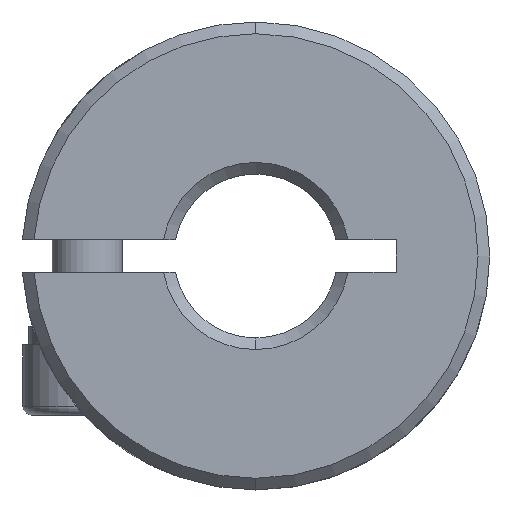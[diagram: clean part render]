
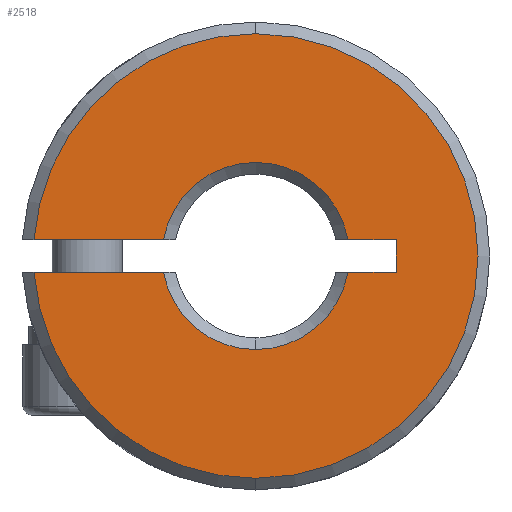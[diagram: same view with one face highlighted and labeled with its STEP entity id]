
A CAD part, front view. The second image highlights one B-rep face of the part: STEP entity #2518.
In plain terms, the highlighted planar face has unit normal (0, -1, 0).
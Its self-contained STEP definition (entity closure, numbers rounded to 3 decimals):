
#29 = CARTESIAN_POINT ( 'NONE',  ( 6., 0.25, 0.7 ) ) ;
#50 = VERTEX_POINT ( 'NONE', #2288 ) ;
#95 = DIRECTION ( 'NONE',  ( 0., 1., 0. ) ) ;
#141 = EDGE_CURVE ( 'NONE', #2504, #559, #3699, .T. ) ;
#147 = DIRECTION ( 'NONE',  ( 0., 1., 0. ) ) ;
#164 = VECTOR ( 'NONE', #3126, 1000. ) ;
#243 = DIRECTION ( 'NONE',  ( 0., -1., 0. ) ) ;
#275 = ORIENTED_EDGE ( 'NONE', *, *, #2959, .F. ) ;
#283 = ORIENTED_EDGE ( 'NONE', *, *, #141, .F. ) ;
#289 = CIRCLE ( 'NONE', #2148, 4. ) ;
#340 = DIRECTION ( 'NONE',  ( 0., 0., 1. ) ) ;
#391 = ORIENTED_EDGE ( 'NONE', *, *, #3555, .F. ) ;
#423 = EDGE_CURVE ( 'NONE', #2504, #3342, #3697, .T. ) ;
#464 = CARTESIAN_POINT ( 'NONE',  ( 6., 0.25, 0.7 ) ) ;
#472 = CARTESIAN_POINT ( 'NONE',  ( 6., 0.25, 0.7 ) ) ;
#490 = CARTESIAN_POINT ( 'NONE',  ( 6., 0.25, -0.7 ) ) ;
#517 = ORIENTED_EDGE ( 'NONE', *, *, #2972, .F. ) ;
#554 = AXIS2_PLACEMENT_3D ( 'NONE', #2796, #2828, #1070 ) ;
#559 = VERTEX_POINT ( 'NONE', #570 ) ;
#570 = CARTESIAN_POINT ( 'NONE',  ( -3.938, 0.25, -0.7 ) ) ;
#620 = CARTESIAN_POINT ( 'NONE',  ( 0., 0.25, -4. ) ) ;
#622 = LINE ( 'NONE', #29, #1389 ) ;
#633 = CIRCLE ( 'NONE', #1315, 4. ) ;
#677 = ORIENTED_EDGE ( 'NONE', *, *, #784, .T. ) ;
#695 = CARTESIAN_POINT ( 'NONE',  ( -9.474, 0.25, -0.7 ) ) ;
#761 = CIRCLE ( 'NONE', #3012, 4. ) ;
#784 = EDGE_CURVE ( 'NONE', #1780, #889, #289, .T. ) ;
#862 = CIRCLE ( 'NONE', #554, 9.5 ) ;
#868 = DIRECTION ( 'NONE',  ( 0., -1., 0. ) ) ;
#889 = VERTEX_POINT ( 'NONE', #1790 ) ;
#967 = AXIS2_PLACEMENT_3D ( 'NONE', #1989, #243, #2013 ) ;
#1070 = DIRECTION ( 'NONE',  ( 0., 0., 1. ) ) ;
#1117 = VERTEX_POINT ( 'NONE', #3626 ) ;
#1128 = FACE_OUTER_BOUND ( 'NONE', #1171, .T. ) ;
#1162 = EDGE_CURVE ( 'NONE', #1117, #1783, #622, .T. ) ;
#1170 = CARTESIAN_POINT ( 'NONE',  ( 6., 0.25, -0.7 ) ) ;
#1171 = EDGE_LOOP ( 'NONE', ( #283, #2000, #1287, #3772, #517, #677, #275, #1808, #391, #1973, #1277 ) ) ;
#1229 = VERTEX_POINT ( 'NONE', #620 ) ;
#1252 = VERTEX_POINT ( 'NONE', #2952 ) ;
#1265 = AXIS2_PLACEMENT_3D ( 'NONE', #3334, #147, #3639 ) ;
#1277 = ORIENTED_EDGE ( 'NONE', *, *, #3570, .T. ) ;
#1287 = ORIENTED_EDGE ( 'NONE', *, *, #2065, .T. ) ;
#1315 = AXIS2_PLACEMENT_3D ( 'NONE', #3297, #95, #2992 ) ;
#1385 = VECTOR ( 'NONE', #1773, 1000. ) ;
#1389 = VECTOR ( 'NONE', #340, 1000. ) ;
#1529 = EDGE_CURVE ( 'NONE', #2284, #1229, #633, .T. ) ;
#1619 = CIRCLE ( 'NONE', #967, 9.5 ) ;
#1667 = DIRECTION ( 'NONE',  ( -1., 0., 0. ) ) ;
#1712 = DIRECTION ( 'NONE',  ( 0., 0., 1. ) ) ;
#1773 = DIRECTION ( 'NONE',  ( 1., 0., 0. ) ) ;
#1780 = VERTEX_POINT ( 'NONE', #2922 ) ;
#1783 = VERTEX_POINT ( 'NONE', #472 ) ;
#1790 = CARTESIAN_POINT ( 'NONE',  ( 3.938, 0.25, 0.7 ) ) ;
#1808 = ORIENTED_EDGE ( 'NONE', *, *, #1162, .F. ) ;
#1890 = PLANE ( 'NONE',  #1265 ) ;
#1973 = ORIENTED_EDGE ( 'NONE', *, *, #1529, .T. ) ;
#1989 = CARTESIAN_POINT ( 'NONE',  ( 0., 0.25, 0. ) ) ;
#2000 = ORIENTED_EDGE ( 'NONE', *, *, #423, .T. ) ;
#2013 = DIRECTION ( 'NONE',  ( 0., 0., 1. ) ) ;
#2065 = EDGE_CURVE ( 'NONE', #3342, #50, #862, .T. ) ;
#2148 = AXIS2_PLACEMENT_3D ( 'NONE', #2831, #3684, #3117 ) ;
#2164 = LINE ( 'NONE', #464, #3620 ) ;
#2200 = CARTESIAN_POINT ( 'NONE',  ( 6., 0.25, 0.7 ) ) ;
#2284 = VERTEX_POINT ( 'NONE', #3196 ) ;
#2288 = CARTESIAN_POINT ( 'NONE',  ( 0., 0.25, 9.5 ) ) ;
#2504 = VERTEX_POINT ( 'NONE', #695 ) ;
#2518 = ADVANCED_FACE ( 'NONE', ( #1128 ), #1890, .F. ) ;
#2521 = DIRECTION ( 'NONE',  ( -1., 0., 0. ) ) ;
#2770 = VECTOR ( 'NONE', #1667, 1000. ) ;
#2788 = CARTESIAN_POINT ( 'NONE',  ( 0., 0.25, -9.5 ) ) ;
#2796 = CARTESIAN_POINT ( 'NONE',  ( 0., 0.25, 0. ) ) ;
#2828 = DIRECTION ( 'NONE',  ( 0., -1., 0. ) ) ;
#2831 = CARTESIAN_POINT ( 'NONE',  ( 0., 0.25, 0. ) ) ;
#2867 = LINE ( 'NONE', #2200, #2770 ) ;
#2922 = CARTESIAN_POINT ( 'NONE',  ( -3.938, 0.25, 0.7 ) ) ;
#2952 = CARTESIAN_POINT ( 'NONE',  ( -9.474, 0.25, 0.7 ) ) ;
#2959 = EDGE_CURVE ( 'NONE', #1783, #889, #2164, .T. ) ;
#2972 = EDGE_CURVE ( 'NONE', #1780, #1252, #2867, .T. ) ;
#2992 = DIRECTION ( 'NONE',  ( 0., 0., 1. ) ) ;
#3012 = AXIS2_PLACEMENT_3D ( 'NONE', #3727, #3462, #3187 ) ;
#3083 = LINE ( 'NONE', #490, #164 ) ;
#3102 = EDGE_CURVE ( 'NONE', #50, #1252, #1619, .T. ) ;
#3117 = DIRECTION ( 'NONE',  ( 0., 0., 1. ) ) ;
#3126 = DIRECTION ( 'NONE',  ( 1., 0., 0. ) ) ;
#3128 = AXIS2_PLACEMENT_3D ( 'NONE', #3203, #868, #1712 ) ;
#3187 = DIRECTION ( 'NONE',  ( 0., 0., 1. ) ) ;
#3196 = CARTESIAN_POINT ( 'NONE',  ( 3.938, 0.25, -0.7 ) ) ;
#3203 = CARTESIAN_POINT ( 'NONE',  ( 0., 0.25, 0. ) ) ;
#3297 = CARTESIAN_POINT ( 'NONE',  ( 0., 0.25, 0. ) ) ;
#3334 = CARTESIAN_POINT ( 'NONE',  ( -50., 0.25, 12. ) ) ;
#3342 = VERTEX_POINT ( 'NONE', #2788 ) ;
#3462 = DIRECTION ( 'NONE',  ( 0., 1., 0. ) ) ;
#3555 = EDGE_CURVE ( 'NONE', #2284, #1117, #3083, .T. ) ;
#3570 = EDGE_CURVE ( 'NONE', #1229, #559, #761, .T. ) ;
#3620 = VECTOR ( 'NONE', #2521, 1000. ) ;
#3626 = CARTESIAN_POINT ( 'NONE',  ( 6., 0.25, -0.7 ) ) ;
#3639 = DIRECTION ( 'NONE',  ( 0., 0., 1. ) ) ;
#3684 = DIRECTION ( 'NONE',  ( 0., 1., 0. ) ) ;
#3697 = CIRCLE ( 'NONE', #3128, 9.5 ) ;
#3699 = LINE ( 'NONE', #1170, #1385 ) ;
#3727 = CARTESIAN_POINT ( 'NONE',  ( 0., 0.25, 0. ) ) ;
#3772 = ORIENTED_EDGE ( 'NONE', *, *, #3102, .T. ) ;
